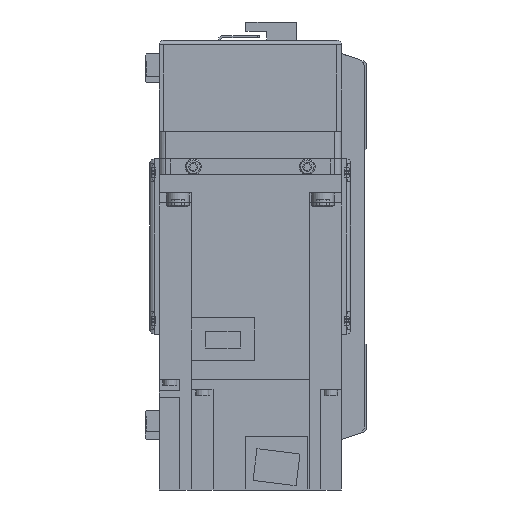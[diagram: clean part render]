
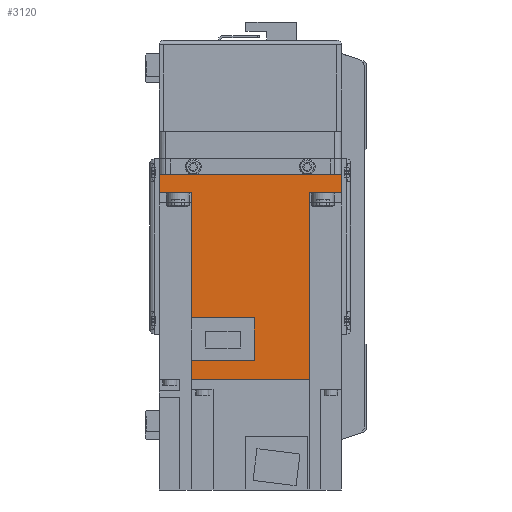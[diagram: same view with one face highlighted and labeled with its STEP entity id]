
A CAD part, left-side view. The second image highlights one B-rep face of the part: STEP entity #3120.
In plain terms, the highlighted planar face has unit normal (-1, 0, 0) as drawn and (1, 0, 0) by its records, which use the part's own axes.
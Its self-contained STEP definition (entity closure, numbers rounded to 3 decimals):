
#3120 = ADVANCED_FACE( '', ( #6648 ), #6649, .F. );
#6648 = FACE_OUTER_BOUND( '', #10390, .T. );
#6649 = PLANE( '', #10391 );
#10390 = EDGE_LOOP( '', ( #19191, #19192, #19193, #19194, #19195, #19196, #19197, #19198, #19199, #19200, #19201, #19202 ) );
#10391 = AXIS2_PLACEMENT_3D( '', #19203, #19204, #19205 );
#19191 = ORIENTED_EDGE( '', *, *, #22992, .F. );
#19192 = ORIENTED_EDGE( '', *, *, #22204, .F. );
#19193 = ORIENTED_EDGE( '', *, *, #24038, .F. );
#19194 = ORIENTED_EDGE( '', *, *, #23067, .T. );
#19195 = ORIENTED_EDGE( '', *, *, #21842, .F. );
#19196 = ORIENTED_EDGE( '', *, *, #23688, .T. );
#19197 = ORIENTED_EDGE( '', *, *, #21491, .T. );
#19198 = ORIENTED_EDGE( '', *, *, #21708, .F. );
#19199 = ORIENTED_EDGE( '', *, *, #22982, .F. );
#19200 = ORIENTED_EDGE( '', *, *, #22206, .F. );
#19201 = ORIENTED_EDGE( '', *, *, #24447, .F. );
#19202 = ORIENTED_EDGE( '', *, *, #22275, .F. );
#19203 = CARTESIAN_POINT( '', ( 40., 89.8, 40. ) );
#19204 = DIRECTION( '', ( -1., 0., 0. ) );
#19205 = DIRECTION( '', ( 0., 0., 1. ) );
#21491 = EDGE_CURVE( '', #25750, #25748, #25751, .T. );
#21708 = EDGE_CURVE( '', #26123, #25748, #26125, .T. );
#21842 = EDGE_CURVE( '', #26351, #26353, #26354, .T. );
#22204 = EDGE_CURVE( '', #26968, #26970, #26971, .T. );
#22206 = EDGE_CURVE( '', #26972, #26974, #26975, .T. );
#22275 = EDGE_CURVE( '', #27090, #27091, #27092, .T. );
#22982 = EDGE_CURVE( '', #26974, #26123, #28192, .T. );
#22992 = EDGE_CURVE( '', #26970, #27090, #28207, .T. );
#23067 = EDGE_CURVE( '', #28318, #26353, #28319, .T. );
#23688 = EDGE_CURVE( '', #26351, #25750, #29188, .T. );
#24038 = EDGE_CURVE( '', #28318, #26968, #29622, .T. );
#24447 = EDGE_CURVE( '', #27091, #26972, #30114, .T. );
#25748 = VERTEX_POINT( '', #32321 );
#25750 = VERTEX_POINT( '', #32324 );
#25751 = LINE( '', #32325, #32326 );
#26123 = VERTEX_POINT( '', #32819 );
#26125 = LINE( '', #32822, #32823 );
#26351 = VERTEX_POINT( '', #33135 );
#26353 = VERTEX_POINT( '', #33138 );
#26354 = LINE( '', #33139, #33140 );
#26968 = VERTEX_POINT( '', #34065 );
#26970 = VERTEX_POINT( '', #34068 );
#26971 = LINE( '', #34069, #34070 );
#26972 = VERTEX_POINT( '', #34071 );
#26974 = VERTEX_POINT( '', #34074 );
#26975 = LINE( '', #34075, #34076 );
#27090 = VERTEX_POINT( '', #34235 );
#27091 = VERTEX_POINT( '', #34236 );
#27092 = LINE( '', #34237, #34238 );
#28192 = LINE( '', #35924, #35925 );
#28207 = LINE( '', #35947, #35948 );
#28318 = VERTEX_POINT( '', #36131 );
#28319 = LINE( '', #36132, #36133 );
#29188 = LINE( '', #37405, #37406 );
#29622 = LINE( '', #38017, #38018 );
#30114 = LINE( '', #38818, #38819 );
#32321 = CARTESIAN_POINT( '', ( 40., 0., -40. ) );
#32324 = CARTESIAN_POINT( '', ( 40., 0., 40. ) );
#32325 = CARTESIAN_POINT( '', ( 40., 0., 40. ) );
#32326 = VECTOR( '', #40060, 1000. );
#32819 = CARTESIAN_POINT( '', ( 40., 8., -40. ) );
#32822 = CARTESIAN_POINT( '', ( 40., 89.8, -40. ) );
#32823 = VECTOR( '', #40365, 1000. );
#33135 = CARTESIAN_POINT( '', ( 40., 8., 40. ) );
#33138 = CARTESIAN_POINT( '', ( 40., 8., 25.95 ) );
#33139 = CARTESIAN_POINT( '', ( 40., 8., 40. ) );
#33140 = VECTOR( '', #40563, 1000. );
#34065 = CARTESIAN_POINT( '', ( 40., 89.8, -25.95 ) );
#34068 = CARTESIAN_POINT( '', ( 40., 81.4, -25.95 ) );
#34069 = CARTESIAN_POINT( '', ( 40., 158., -25.95 ) );
#34070 = VECTOR( '', #41037, 1000. );
#34071 = CARTESIAN_POINT( '', ( 40., 62.8, -25.95 ) );
#34074 = CARTESIAN_POINT( '', ( 40., 8., -25.95 ) );
#34075 = CARTESIAN_POINT( '', ( 40., 158., -25.95 ) );
#34076 = VECTOR( '', #41039, 1000. );
#34235 = CARTESIAN_POINT( '', ( 40., 81.4, 1.8 ) );
#34236 = CARTESIAN_POINT( '', ( 40., 62.8, 1.8 ) );
#34237 = CARTESIAN_POINT( '', ( 40., 81.4, 1.8 ) );
#34238 = VECTOR( '', #41135, 1000. );
#35924 = CARTESIAN_POINT( '', ( 40., 8., 40. ) );
#35925 = VECTOR( '', #42006, 1000. );
#35947 = CARTESIAN_POINT( '', ( 40., 81.4, -26. ) );
#35948 = VECTOR( '', #42014, 1000. );
#36131 = CARTESIAN_POINT( '', ( 40., 89.8, 25.95 ) );
#36132 = CARTESIAN_POINT( '', ( 40., 158., 25.95 ) );
#36133 = VECTOR( '', #42088, 1000. );
#37405 = CARTESIAN_POINT( '', ( 40., 89.8, 40. ) );
#37406 = VECTOR( '', #42806, 1000. );
#38017 = CARTESIAN_POINT( '', ( 40., 89.8, 40. ) );
#38018 = VECTOR( '', #43198, 1000. );
#38818 = CARTESIAN_POINT( '', ( 40., 62.8, 1.8 ) );
#38819 = VECTOR( '', #43544, 1000. );
#40060 = DIRECTION( '', ( 0., 0., -1. ) );
#40365 = DIRECTION( '', ( 0., -1., 0. ) );
#40563 = DIRECTION( '', ( 0., 0., -1. ) );
#41037 = DIRECTION( '', ( 0., -1., 0. ) );
#41039 = DIRECTION( '', ( 0., -1., 0. ) );
#41135 = DIRECTION( '', ( 0., -1., 0. ) );
#42006 = DIRECTION( '', ( 0., 0., -1. ) );
#42014 = DIRECTION( '', ( 0., 0., 1. ) );
#42088 = DIRECTION( '', ( 0., -1., 0. ) );
#42806 = DIRECTION( '', ( 0., -1., 0. ) );
#43198 = DIRECTION( '', ( 0., 0., -1. ) );
#43544 = DIRECTION( '', ( 0., 0., -1. ) );
